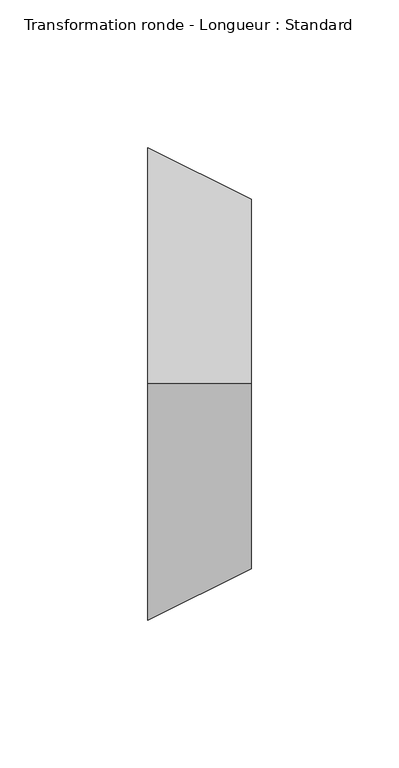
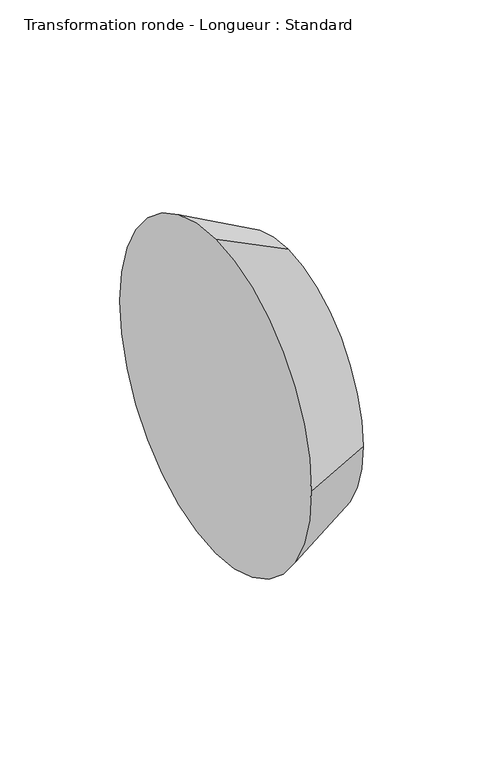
"""IFC4 building model written with IfcOpenShell, lengths in millimetres: duct fitting geometry, Transformation ronde - Longueur : Standard."""

import ifcopenshell
import ifcopenshell.guid

model = None  # the IFC model being written
_history = None  # IfcOwnerHistory: only IFC2X3 demands one
_inside = {}  # id of a spatial element -> (the spatial element, [elements in it])
_under = {}  # id of a project, library or spatial element -> (it, [spatial elements below it])
_declared = {}  # id of a project -> (the project, [libraries it declares])
_typed = {}  # id of a type object -> (the type object, [elements of that type])
_made_of = {}  # id of a material, layer set ... -> (it, [elements and type objects made of it])


def new_model(schema):
    """Start an empty IFC model of exactly this schema.

    Asked for "IFC4X3", IfcOpenShell would pick the latest addendum, in which some entities
    have other attributes; the version numbers below select the first issue.
    IFC2X3 requires an IfcOwnerHistory on every rooted entity: one is made here for all.
    """
    global model, _history
    if schema == "IFC4X3":
        model = ifcopenshell.file(schema_version=(4, 3, 0, 0))
    else:
        model = ifcopenshell.file(schema=schema)
    _inside.clear()
    _under.clear()
    _declared.clear()
    _typed.clear()
    _made_of.clear()
    _history = None
    if model.schema == "IFC2X3":
        org = make("IfcOrganization", Name="unknown")
        user = make(
            "IfcPersonAndOrganization",
            ThePerson=make("IfcPerson", FamilyName="unknown"),
            TheOrganization=org,
        )
        app = make(
            "IfcApplication",
            ApplicationDeveloper=org,
            Version="unknown",
            ApplicationFullName="unknown",
            ApplicationIdentifier="unknown",
        )
        _history = make(
            "IfcOwnerHistory",
            OwningUser=user,
            OwningApplication=app,
            ChangeAction="ADDED",
            CreationDate=0,
        )
    return model


def make(cls, **values):
    """One entity of the class cls with the attributes given. An attribute that is None is left unset."""
    return model.create_entity(
        cls, **{name: value for name, value in values.items() if value is not None}
    )


def rooted(cls, **values):
    """An entity with a GlobalId (a new one), such as an element, a storey or a relation."""
    return make(cls, GlobalId=ifcopenshell.guid.new(), OwnerHistory=_history, **values)


def si_unit(unit_type, name, prefix=None):
    """IfcSIUnit, for example si_unit("LENGTHUNIT", "METRE", prefix="MILLI")."""
    return make("IfcSIUnit", UnitType=unit_type, Prefix=prefix, Name=name)


def assignment(units):
    """IfcUnitAssignment: the units of a project."""
    return None if units is None else make("IfcUnitAssignment", Units=units)


def point(xyz):
    """IfcCartesianPoint."""
    return None if xyz is None else make("IfcCartesianPoint", Coordinates=xyz)


def direction(xyz):
    """IfcDirection."""
    return None if xyz is None else make("IfcDirection", DirectionRatios=xyz)


def frame(location, z_axis=None, x_axis=None):
    """IfcAxis2Placement3D, a coordinate frame: its origin and axes. An axis left out is left unset."""
    return make(
        "IfcAxis2Placement3D",
        Location=point(location),
        Axis=direction(z_axis),
        RefDirection=direction(x_axis),
    )


def origin():
    """The frame at (0, 0, 0) with its axes left unset."""
    return frame((0.0, 0.0, 0.0))


def place(relative_to, where):
    """IfcLocalPlacement: puts the frame where relative to a parent placement (None: the world)."""
    return make(
        "IfcLocalPlacement", PlacementRelTo=relative_to, RelativePlacement=where
    )


def context(
    kind, dimensions, precision=None, world=None, true_north=None, identifier=None
):
    """IfcGeometricRepresentationContext, for example the 3D "Model" context."""
    return make(
        "IfcGeometricRepresentationContext",
        ContextIdentifier=identifier,
        ContextType=kind,
        CoordinateSpaceDimension=dimensions,
        Precision=precision,
        WorldCoordinateSystem=world,
        TrueNorth=true_north,
    )


def project(units=None, contexts=None):
    """IfcProject with its units and contexts."""
    return rooted(
        "IfcProject",
        Name="project",
        RepresentationContexts=contexts,
        UnitsInContext=assignment(units),
    )


def spatial(cls, under=None, at=None, **own):
    """A site, building, storey or space (cls), placed at a placement, below another one or the project."""
    s = rooted(cls, ObjectPlacement=at, **own)
    if under is not None:
        _under.setdefault(under.id(), (under, []))[1].append(s)
    return s


def circle_curve(where, radius):
    """IfcCircle in the frame where."""
    return make("IfcCircle", Position=where, Radius=radius)


def shape(context_of_items, identifier, shape_type, items):
    """IfcShapeRepresentation: the items that make up one representation, for example the "Body"."""
    return make(
        "IfcShapeRepresentation",
        ContextOfItems=context_of_items,
        RepresentationIdentifier=identifier,
        RepresentationType=shape_type,
        Items=items,
    )


def source(mapping_origin, context_of_items, identifier, shape_type, items):
    """IfcRepresentationMap: a shape defined once, which mapped items show again and again."""
    return make(
        "IfcRepresentationMap",
        MappingOrigin=mapping_origin,
        MappedRepresentation=shape(context_of_items, identifier, shape_type, items),
    )


def transform(
    local_origin,
    x_axis=None,
    y_axis=None,
    z_axis=None,
    scale=None,
    scale2=None,
    scale3=None,
    uniform=True,
):
    """IfcCartesianTransformationOperator3D, or its non-uniform kind. x_axis, y_axis, z_axis: its Axis1, 2, 3."""
    if uniform:
        return make(
            "IfcCartesianTransformationOperator3D",
            Axis1=direction(x_axis),
            Axis2=direction(y_axis),
            LocalOrigin=point(local_origin),
            Scale=scale,
            Axis3=direction(z_axis),
        )
    return make(
        "IfcCartesianTransformationOperator3DnonUniform",
        Axis1=direction(x_axis),
        Axis2=direction(y_axis),
        LocalOrigin=point(local_origin),
        Scale=scale,
        Axis3=direction(z_axis),
        Scale2=scale2,
        Scale3=scale3,
    )


def mapped(mapping_source, mapping_target):
    """IfcMappedItem: shows the shape of a source again, moved by a transform."""
    return make(
        "IfcMappedItem", MappingSource=mapping_source, MappingTarget=mapping_target
    )


def made_of(thing, what):
    """Note that an element or type object is made of a material, layer set ...; save() writes the relation."""
    if what is not None:
        _made_of.setdefault(what.id(), (what, []))[1].append(thing)
    return thing


def element(
    cls,
    number,
    at=None,
    inside=None,
    cuts=None,
    type_object=None,
    material=None,
    context=None,
    identifier="Body",
    shape_type=None,
    held_by="IfcProductDefinitionShape",
    body=None,
    shapes=None,
    **own,
):
    """One element of the class cls, such as IfcWall. Its Tag is "e" and its number.

    at: its placement. inside: the storey or other place that contains it. cuts: it is an
    opening in that element (IfcRelVoidsElement). A single representation is given by context,
    identifier, shape_type and body (its items); several are given by shapes. held_by: the class
    of the entity that holds the representations. save() writes the other relations.
    """
    e = rooted(cls, Tag="e%d" % number, ObjectPlacement=at, **own)
    if body is not None:
        shapes = [shape(context, identifier, shape_type, body)]
    if shapes is not None:
        e.Representation = make(held_by, Representations=shapes)
    if inside is not None:
        _inside.setdefault(inside.id(), (inside, []))[1].append(e)
    if cuts is not None:
        rooted(
            "IfcRelVoidsElement", RelatingBuildingElement=cuts, RelatedOpeningElement=e
        )
    if type_object is not None:
        _typed.setdefault(type_object.id(), (type_object, []))[1].append(e)
    return made_of(e, material)


def aggregate(whole, parts):
    """IfcRelAggregates: a whole, such as a stair, and the parts it consists of."""
    return rooted("IfcRelAggregates", RelatingObject=whole, RelatedObjects=parts)


def save(model, path):
    """Write the relations noted so far, then the file.

    IfcRelAggregates (storeys below a building ...), IfcRelContainedInSpatialStructure (elements
    in a storey), IfcRelDefinesByType, IfcRelAssociatesMaterial and IfcRelDeclares: one each for
    every whole, place, type object, material and project.
    """
    for whole, parts in _under.values():
        aggregate(whole, parts)
    for where, things in _inside.values():
        rooted(
            "IfcRelContainedInSpatialStructure",
            RelatedElements=things,
            RelatingStructure=where,
        )
    for kind, things in _typed.values():
        rooted("IfcRelDefinesByType", RelatedObjects=things, RelatingType=kind)
    for what, things in _made_of.values():
        rooted("IfcRelAssociatesMaterial", RelatedObjects=things, RelatingMaterial=what)
    for by, libraries in _declared.values():
        rooted("IfcRelDeclares", RelatingContext=by, RelatedDefinitions=libraries)
    model.write(path)


def plane_surface(at):
    """IfcPlane: the flat surface through the origin of the frame at, square to its z axis."""
    return make("IfcPlane", Position=at)


def spline_surface(u_degree, v_degree, points, u_multiplicities, v_multiplicities, u_knots, v_knots, weights=None):
    """IfcBSplineSurfaceWithKnots; with weights, IfcRationalBSplineSurfaceWithKnots. points: one row for each step in u."""
    own = dict(
        UDegree=u_degree,
        VDegree=v_degree,
        ControlPointsList=[[point(p) for p in row] for row in points],
        SurfaceForm="UNSPECIFIED",
        UClosed=False,
        VClosed=False,
        SelfIntersect=False,
        UMultiplicities=u_multiplicities,
        VMultiplicities=v_multiplicities,
        UKnots=u_knots,
        VKnots=v_knots,
        KnotSpec="UNSPECIFIED",
    )
    if weights is None:
        return make("IfcBSplineSurfaceWithKnots", **own)
    return make("IfcRationalBSplineSurfaceWithKnots", WeightsData=weights, **own)


def advanced_brep(points, edges, surfaces, faces):
    """IfcAdvancedBrep: a solid bounded by faces that lie on surfaces and meet in shared edges.

    An edge is (start, end): straight between two places in points (the first is 0);
    or (start, end, curve); or (start, end, curve, False) where it runs against its curve.
    A face is (place in surfaces, loops), or (place, loops, False) where it looks against
    its surface's normal. A loop lists edges by number (the first is 1), with a minus sign
    where the edge is run from its end to its start. The first loop is the outer one.
    """
    corners = [point(p) for p in points]
    vertices = [make("IfcVertexPoint", VertexGeometry=c) for c in corners]
    made = []
    for start, end, *more in edges:
        made.append(
            make(
                "IfcEdgeCurve",
                EdgeStart=vertices[start],
                EdgeEnd=vertices[end],
                EdgeGeometry=more[0] if more else make("IfcPolyline", Points=[corners[start], corners[end]]),
                SameSense=more[1] if len(more) > 1 else True,
            )
        )
    hull = []
    for where, loops, *sense in faces:
        bounds = []
        for j, loop in enumerate(loops):
            ring = [make("IfcOrientedEdge", EdgeElement=made[abs(k) - 1], Orientation=k > 0) for k in loop]
            bounds.append(
                make(
                    "IfcFaceOuterBound" if j == 0 else "IfcFaceBound",
                    Bound=make("IfcEdgeLoop", EdgeList=ring),
                    Orientation=True,
                )
            )
        hull.append(make("IfcAdvancedFace", Bounds=bounds, FaceSurface=surfaces[where], SameSense=sense[0] if sense else True))
    return make("IfcAdvancedBrep", Outer=make("IfcClosedShell", CfsFaces=hull))


def transformation_ronde_longueur_standard_6076e017(model_context):
    return source(origin(), model_context, "Body", "AdvancedBrep", [
        advanced_brep(
        [(35.0, -62.5000006, 0.0), (35.0, -6e-07, -62.5), (35.0, 62.4999994, 0.0), (35.0, -6e-07, 62.5), (0.0, -80.0, 0.0), (0.0, 0.0, 80.0), (0.0, 80.0, 0.0), (0.0, 0.0, -80.0)],
        [
            (0, 1, circle_curve(frame((35.0, -6e-07, 0.0), z_axis=(1.0, 0.0, 0.0), x_axis=(0.0, -1.0, 0.0)), 62.5)),
            (1, 2, circle_curve(frame((35.0, -6e-07, 0.0), z_axis=(1.0, 0.0, 0.0), x_axis=(0.0, -1.0, 0.0)), 62.5)),
            (2, 3, circle_curve(frame((35.0, -6e-07, 0.0), z_axis=(1.0, 0.0, 0.0), x_axis=(0.0, -1.0, 0.0)), 62.5)),
            (3, 0, circle_curve(frame((35.0, -6e-07, 0.0), z_axis=(1.0, 0.0, 0.0), x_axis=(0.0, -1.0, 0.0)), 62.5)),
            (4, 5, circle_curve(frame((0.0, 0.0, 0.0), z_axis=(-1.0, 0.0, 0.0), x_axis=(0.0, -1.0, 0.0)), 80.0)),
            (5, 6, circle_curve(frame((0.0, 0.0, 0.0), z_axis=(-1.0, 0.0, 0.0), x_axis=(0.0, -1.0, 0.0)), 80.0)),
            (6, 7, circle_curve(frame((0.0, 0.0, 0.0), z_axis=(-1.0, 0.0, 0.0), x_axis=(0.0, -1.0, 0.0)), 80.0)),
            (7, 4, circle_curve(frame((0.0, 0.0, 0.0), z_axis=(-1.0, 0.0, 0.0), x_axis=(0.0, -1.0, 0.0)), 80.0)),
            (3, 5),
            (4, 0),
            (2, 6),
            (1, 7),
        ],
        [
            plane_surface(frame((35.0, -6e-07, 0.0), z_axis=(1.0, 0.0, 0.0), x_axis=(0.0, 0.0, 1.0))),
            plane_surface(frame((0.0, 0.0, 0.0), z_axis=(-1.0, 0.0, 0.0), x_axis=(0.0, 0.0, 1.0))),
            spline_surface(1, 2, [[(0.0, -80.0, 0.0), (0.0, -80.0, 80.0), (0.0, 0.0, 80.0)], [(35.0, -62.5000006, 0.0), (35.0, -62.5000006, 62.5), (35.0, -6e-07, 62.5)]], [2, 2], [3, 3], [0.0, 1.0], [0.0, 1.0], weights=[[1.0, 0.7071067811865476, 1.0], [1.0, 0.7071067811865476, 1.0]]),
            spline_surface(1, 2, [[(0.0, 0.0, 80.0), (0.0, 80.0, 80.0), (0.0, 80.0, 0.0)], [(35.0, -6e-07, 62.5), (35.0, 62.4999994, 62.5), (35.0, 62.4999994, 0.0)]], [2, 2], [3, 3], [0.0, 1.0], [0.0, 1.0], weights=[[1.0, 0.7071067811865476, 1.0], [1.0, 0.7071067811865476, 1.0]]),
            spline_surface(1, 2, [[(0.0, 80.0, 0.0), (0.0, 80.0, -80.0), (0.0, 0.0, -80.0)], [(35.0, 62.4999994, 0.0), (35.0, 62.4999994, -62.5), (35.0, -6e-07, -62.5)]], [2, 2], [3, 3], [0.0, 1.0], [0.0, 1.0], weights=[[1.0, 0.7071067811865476, 1.0], [1.0, 0.7071067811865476, 1.0]]),
            spline_surface(1, 2, [[(0.0, 0.0, -80.0), (0.0, -80.0, -80.0), (0.0, -80.0, 0.0)], [(35.0, -6e-07, -62.5), (35.0, -62.5000006, -62.5), (35.0, -62.5000006, 0.0)]], [2, 2], [3, 3], [0.0, 1.0], [0.0, 1.0], weights=[[1.0, 0.7071067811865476, 1.0], [1.0, 0.7071067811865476, 1.0]]),
        ],
        [
            (0, [[1, 2, 3, 4]]),
            (1, [[5, 6, 7, 8]]),
            (2, [[9, -5, 10, -4]]),
            (3, [[11, -6, -9, -3]]),
            (4, [[12, -7, -11, -2]]),
            (5, [[-10, -8, -12, -1]]),
        ],
    ),
    ])


if __name__ == "__main__":
    model = new_model("IFC4")
    model_context = context("Model", 3, world=origin())
    ifc_project = project(units=[si_unit("LENGTHUNIT", "METRE", prefix="MILLI")], contexts=[model_context])
    site = spatial("IfcSite", under=ifc_project)
    building = spatial("IfcBuilding", under=site)
    placement = place(None, origin())
    transformation_ronde_longueur_standard_shape = transformation_ronde_longueur_standard_6076e017(model_context)
    element("IfcDuctFitting", 1, ObjectType="Transformation ronde - Longueur : Standard", at=placement, inside=building, context=model_context, shape_type="MappedRepresentation", body=[
        mapped(transformation_ronde_longueur_standard_shape, transform((0.0, 0.0, 0.0), x_axis=(1.0, 0.0, 0.0), y_axis=(0.0, 1.0, 0.0), z_axis=(0.0, 0.0, 1.0))),
    ])
    save(model, "model.ifc")
